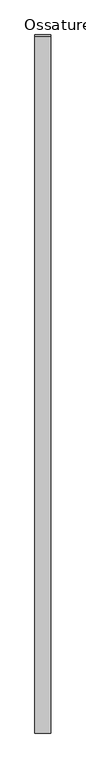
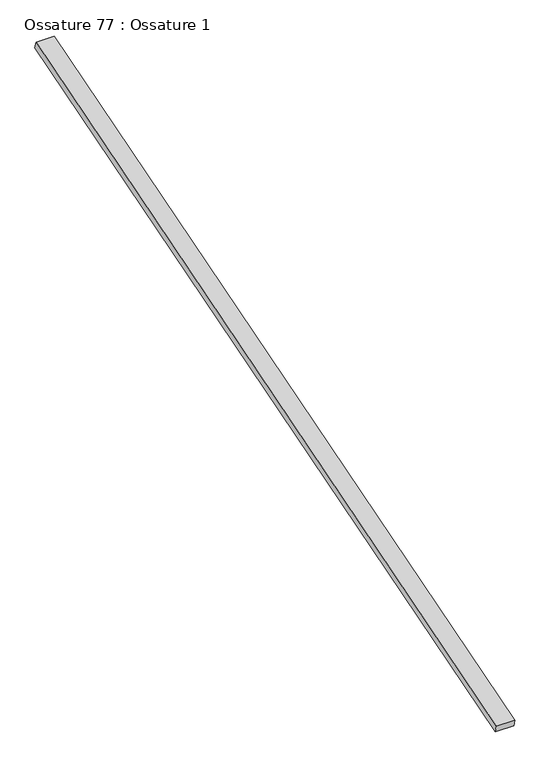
"""IFC4 building model written with IfcOpenShell, lengths in millimetres: beam geometry, Ossature 77 : Ossature 1."""

from ifc_helpers import new_model, si_unit, frame, origin, place, context, project, spatial, polyline, outline, extrude, source, transform, mapped, element, save


def ossature_77_ossature_1_134ea264(model_context):
    return source(origin(), model_context, "Body", "SweptSolid", [
        extrude(outline(polyline([(0.0, 0.0), (0.0, -4543.0299679), (-100.0, -4543.0299679), (-100.0, 0.0), (0.0, 0.0)])), frame((18626.2466393, -833.3913565, 8153.6336115), z_axis=(0.0, -0.28734788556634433, 0.9578262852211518), x_axis=(-1.0, 0.0, 0.0)), (0.0, 0.0, 1.0), 40.0),
    ])


if __name__ == "__main__":
    model = new_model("IFC4")
    model_context = context("Model", 3, world=origin())
    ifc_project = project(units=[si_unit("LENGTHUNIT", "METRE", prefix="MILLI")], contexts=[model_context])
    site = spatial("IfcSite", under=ifc_project)
    building = spatial("IfcBuilding", under=site)
    placement = place(None, origin())
    ossature_77_ossature_1_shape = ossature_77_ossature_1_134ea264(model_context)
    element("IfcBeam", 1, ObjectType="Ossature 77 : Ossature 1", at=placement, inside=building, context=model_context, shape_type="MappedRepresentation", body=[
        mapped(ossature_77_ossature_1_shape, transform((0.0, 0.0, 0.0), x_axis=(1.0, 0.0, 0.0), y_axis=(0.0, 1.0, 0.0), z_axis=(0.0, 0.0, 1.0))),
    ])
    save(model, "model.ifc")
